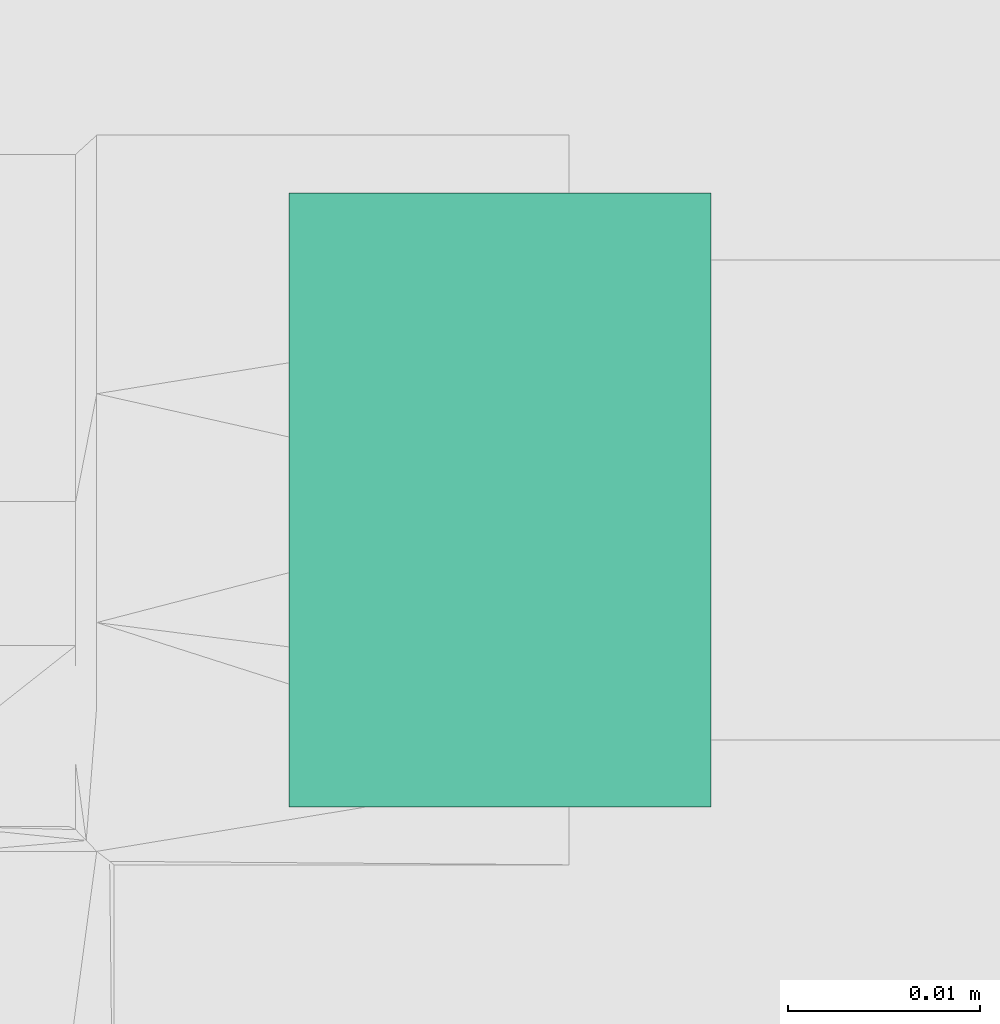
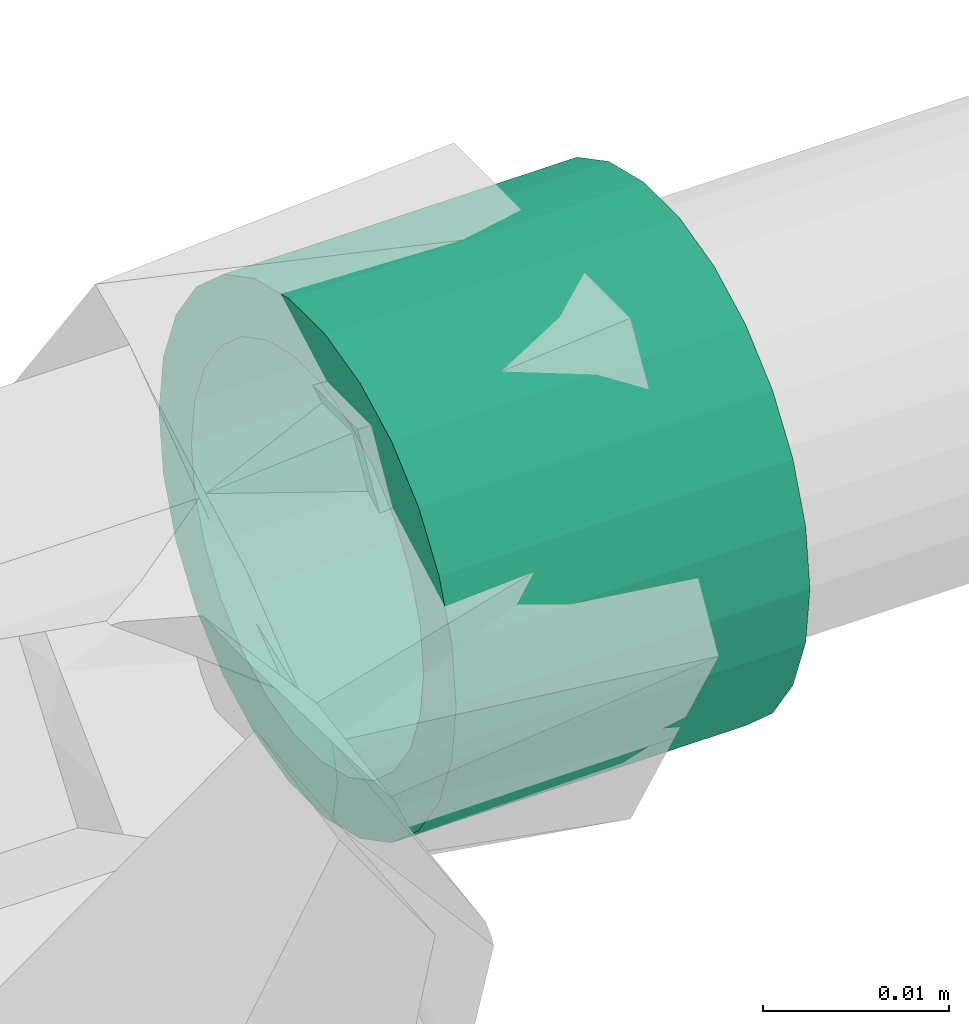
# One storey, part 156 of 166: 1 flow fitting.
"""IFC2X3 building model written with IfcOpenShell, lengths in metres."""

import ifcopenshell
import ifcopenshell.guid

model = None  # the IFC model being written
_history = None  # IfcOwnerHistory: only IFC2X3 demands one
_inside = {}  # id of a spatial element -> (the spatial element, [elements in it])
_under = {}  # id of a project, library or spatial element -> (it, [spatial elements below it])
_declared = {}  # id of a project -> (the project, [libraries it declares])
_typed = {}  # id of a type object -> (the type object, [elements of that type])
_made_of = {}  # id of a material, layer set ... -> (it, [elements and type objects made of it])


def new_model(schema):
    """Start an empty IFC model of exactly this schema.

    Asked for "IFC4X3", IfcOpenShell would pick the latest addendum, in which some entities
    have other attributes; the version numbers below select the first issue.
    IFC2X3 requires an IfcOwnerHistory on every rooted entity: one is made here for all.
    """
    global model, _history
    if schema == "IFC4X3":
        model = ifcopenshell.file(schema_version=(4, 3, 0, 0))
    else:
        model = ifcopenshell.file(schema=schema)
    _inside.clear()
    _under.clear()
    _declared.clear()
    _typed.clear()
    _made_of.clear()
    _history = None
    if model.schema == "IFC2X3":
        org = make("IfcOrganization", Name="unknown")
        user = make(
            "IfcPersonAndOrganization",
            ThePerson=make("IfcPerson", FamilyName="unknown"),
            TheOrganization=org,
        )
        app = make(
            "IfcApplication",
            ApplicationDeveloper=org,
            Version="unknown",
            ApplicationFullName="unknown",
            ApplicationIdentifier="unknown",
        )
        _history = make(
            "IfcOwnerHistory",
            OwningUser=user,
            OwningApplication=app,
            ChangeAction="ADDED",
            CreationDate=0,
        )
    return model


def make(cls, **values):
    """One entity of the class cls with the attributes given. An attribute that is None is left unset."""
    return model.create_entity(
        cls, **{name: value for name, value in values.items() if value is not None}
    )


def entity(cls, *values):
    """Any entity or typed value of the class cls, its attributes in the order of the schema. None: left unset."""
    e = model.create_entity(cls)
    for i, value in enumerate(values):
        if value is not None:
            e[i] = value
    return e


def rooted(cls, **values):
    """An entity with a GlobalId (a new one), such as an element, a storey or a relation."""
    return make(cls, GlobalId=ifcopenshell.guid.new(), OwnerHistory=_history, **values)


def si_unit(unit_type, name, prefix=None):
    """IfcSIUnit, for example si_unit("LENGTHUNIT", "METRE", prefix="MILLI")."""
    return make("IfcSIUnit", UnitType=unit_type, Prefix=prefix, Name=name)


def converted_unit(unit_type, name, factor, base, dimensions=None, offset=None):
    """IfcConversionBasedUnit, such as the inch: factor (a typed value) times the base unit."""
    return make(
        "IfcConversionBasedUnit"
        if offset is None
        else "IfcConversionBasedUnitWithOffset",
        ConversionOffset=offset,
        Dimensions=None
        if dimensions is None
        else entity("IfcDimensionalExponents", *dimensions),
        UnitType=unit_type,
        Name=name,
        ConversionFactor=make(
            "IfcMeasureWithUnit", ValueComponent=factor, UnitComponent=base
        ),
    )


def assignment(units):
    """IfcUnitAssignment: the units of a project."""
    return None if units is None else make("IfcUnitAssignment", Units=units)


def point(xyz):
    """IfcCartesianPoint."""
    return None if xyz is None else make("IfcCartesianPoint", Coordinates=xyz)


def direction(xyz):
    """IfcDirection."""
    return None if xyz is None else make("IfcDirection", DirectionRatios=xyz)


def frame(location, z_axis=None, x_axis=None):
    """IfcAxis2Placement3D, a coordinate frame: its origin and axes. An axis left out is left unset."""
    return make(
        "IfcAxis2Placement3D",
        Location=point(location),
        Axis=direction(z_axis),
        RefDirection=direction(x_axis),
    )


def frame_2d(location, x_axis=None):
    """IfcAxis2Placement2D, a coordinate frame in the plane: its origin and x axis."""
    return make(
        "IfcAxis2Placement2D", Location=point(location), RefDirection=direction(x_axis)
    )


def origin():
    """The frame at (0, 0, 0) with its axes left unset."""
    return frame((0.0, 0.0, 0.0))


def place(relative_to, where):
    """IfcLocalPlacement: puts the frame where relative to a parent placement (None: the world)."""
    return make(
        "IfcLocalPlacement", PlacementRelTo=relative_to, RelativePlacement=where
    )


def context(
    kind, dimensions, precision=None, world=None, true_north=None, identifier=None
):
    """IfcGeometricRepresentationContext, for example the 3D "Model" context."""
    return make(
        "IfcGeometricRepresentationContext",
        ContextIdentifier=identifier,
        ContextType=kind,
        CoordinateSpaceDimension=dimensions,
        Precision=precision,
        WorldCoordinateSystem=world,
        TrueNorth=true_north,
    )


def subcontext(parent, identifier, kind, view, scale=None):
    """IfcGeometricRepresentationSubContext, for example "Body" below "Model"."""
    return make(
        "IfcGeometricRepresentationSubContext",
        ContextIdentifier=identifier,
        ContextType=kind,
        ParentContext=parent,
        TargetScale=scale,
        TargetView=view,
    )


def project(units=None, contexts=None):
    """IfcProject with its units and contexts."""
    return rooted(
        "IfcProject",
        Name="project",
        RepresentationContexts=contexts,
        UnitsInContext=assignment(units),
    )


def spatial(cls, under=None, at=None, **own):
    """A site, building, storey or space (cls), placed at a placement, below another one or the project."""
    s = rooted(cls, ObjectPlacement=at, **own)
    if under is not None:
        _under.setdefault(under.id(), (under, []))[1].append(s)
    return s


def profile(cls, at=None, kind="AREA", **sizes):
    """A parametric profile (cls). Its sizes go by their IFC names, for example OverallWidth=200.0."""
    return make(cls, ProfileType=kind, Position=at, **sizes)


def hollow_circle(**sizes):
    """IfcCircleHollowProfileDef."""
    return profile("IfcCircleHollowProfileDef", **sizes)


def extrude(swept, where, along, depth):
    """IfcExtrudedAreaSolid: the profile swept, set in the frame where, extruded along a direction by depth."""
    return make(
        "IfcExtrudedAreaSolid",
        SweptArea=swept,
        Position=where,
        ExtrudedDirection=direction(along),
        Depth=depth,
    )


def shape(context_of_items, identifier, shape_type, items):
    """IfcShapeRepresentation: the items that make up one representation, for example the "Body"."""
    return make(
        "IfcShapeRepresentation",
        ContextOfItems=context_of_items,
        RepresentationIdentifier=identifier,
        RepresentationType=shape_type,
        Items=items,
    )


def source(mapping_origin, context_of_items, identifier, shape_type, items):
    """IfcRepresentationMap: a shape defined once, which mapped items show again and again."""
    return make(
        "IfcRepresentationMap",
        MappingOrigin=mapping_origin,
        MappedRepresentation=shape(context_of_items, identifier, shape_type, items),
    )


def transform(
    local_origin,
    x_axis=None,
    y_axis=None,
    z_axis=None,
    scale=None,
    scale2=None,
    scale3=None,
    uniform=True,
):
    """IfcCartesianTransformationOperator3D, or its non-uniform kind. x_axis, y_axis, z_axis: its Axis1, 2, 3."""
    if uniform:
        return make(
            "IfcCartesianTransformationOperator3D",
            Axis1=direction(x_axis),
            Axis2=direction(y_axis),
            LocalOrigin=point(local_origin),
            Scale=scale,
            Axis3=direction(z_axis),
        )
    return make(
        "IfcCartesianTransformationOperator3DnonUniform",
        Axis1=direction(x_axis),
        Axis2=direction(y_axis),
        LocalOrigin=point(local_origin),
        Scale=scale,
        Axis3=direction(z_axis),
        Scale2=scale2,
        Scale3=scale3,
    )


def mapped(mapping_source, mapping_target):
    """IfcMappedItem: shows the shape of a source again, moved by a transform."""
    return make(
        "IfcMappedItem", MappingSource=mapping_source, MappingTarget=mapping_target
    )


def material(Name=None, Category=None):
    """IfcMaterial."""
    return make("IfcMaterial", Name=Name, Category=Category)


def made_of(thing, what):
    """Note that an element or type object is made of a material, layer set ...; save() writes the relation."""
    if what is not None:
        _made_of.setdefault(what.id(), (what, []))[1].append(thing)
    return thing


def type_object(cls, material=None, **own):
    """A type object (cls), such as IfcWallType, which elements share."""
    return made_of(rooted(cls, **own), material)


def type_shapes(of_type, sources):
    """Give a type object the sources (RepresentationMaps) that its elements show as mapped items."""
    of_type.RepresentationMaps = sources


def element(
    cls,
    number,
    at=None,
    inside=None,
    cuts=None,
    type_object=None,
    material=None,
    context=None,
    identifier="Body",
    shape_type=None,
    held_by="IfcProductDefinitionShape",
    body=None,
    shapes=None,
    **own,
):
    """One element of the class cls, such as IfcWall. Its Tag is "e" and its number.

    at: its placement. inside: the storey or other place that contains it. cuts: it is an
    opening in that element (IfcRelVoidsElement). A single representation is given by context,
    identifier, shape_type and body (its items); several are given by shapes. held_by: the class
    of the entity that holds the representations. save() writes the other relations.
    """
    e = rooted(cls, Tag="e%d" % number, ObjectPlacement=at, **own)
    if body is not None:
        shapes = [shape(context, identifier, shape_type, body)]
    if shapes is not None:
        e.Representation = make(held_by, Representations=shapes)
    if inside is not None:
        _inside.setdefault(inside.id(), (inside, []))[1].append(e)
    if cuts is not None:
        rooted(
            "IfcRelVoidsElement", RelatingBuildingElement=cuts, RelatedOpeningElement=e
        )
    if type_object is not None:
        _typed.setdefault(type_object.id(), (type_object, []))[1].append(e)
    return made_of(e, material)


def aggregate(whole, parts):
    """IfcRelAggregates: a whole, such as a stair, and the parts it consists of."""
    return rooted("IfcRelAggregates", RelatingObject=whole, RelatedObjects=parts)


def save(model, path):
    """Write the relations noted so far, then the file.

    IfcRelAggregates (storeys below a building ...), IfcRelContainedInSpatialStructure (elements
    in a storey), IfcRelDefinesByType, IfcRelAssociatesMaterial and IfcRelDeclares: one each for
    every whole, place, type object, material and project.
    """
    for whole, parts in _under.values():
        aggregate(whole, parts)
    for where, things in _inside.values():
        rooted(
            "IfcRelContainedInSpatialStructure",
            RelatedElements=things,
            RelatingStructure=where,
        )
    for kind, things in _typed.values():
        rooted("IfcRelDefinesByType", RelatedObjects=things, RelatingType=kind)
    for what, things in _made_of.values():
        rooted("IfcRelAssociatesMaterial", RelatedObjects=things, RelatingMaterial=what)
    for by, libraries in _declared.values():
        rooted("IfcRelDeclares", RelatingContext=by, RelatedDefinitions=libraries)
    model.write(path)


model = new_model("IFC2X3")

# Units and contexts
model_context = context("Model", 3, precision=1e-05, world=origin(), true_north=direction((6.123233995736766e-17, 1.0)))
body_context = subcontext(model_context, "Body", "Model", "MODEL_VIEW")
ifc_project = project(units=[si_unit("LENGTHUNIT", "METRE"), converted_unit("PLANEANGLEUNIT", "DEGREE", entity("IfcPlaneAngleMeasure", 0.017453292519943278), si_unit("PLANEANGLEUNIT", "RADIAN"), dimensions=[0, 0, 0, 0, 0, 0, 0]), si_unit("AREAUNIT", "SQUARE_METRE")], contexts=[model_context])

# Site, building, storey
site_placement = place(None, origin())
site = spatial("IfcSite", under=ifc_project, at=site_placement, Name="Default", CompositionType="ELEMENT")
building_placement = place(site_placement, origin())
building = spatial("IfcBuilding", under=site, at=building_placement, Name="CASA DE ACOLHIDA PARA IDOSOS", CompositionType="ELEMENT")
storey_placement = place(building_placement, frame((0.0, 0.0, -1.7499999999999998)))
storey = spatial("IfcBuildingStorey", under=building, at=storey_placement, Name="IMPLANTAÇÃO DRENAGEM", CompositionType="ELEMENT", Elevation=-1.7499999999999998)

# Flow fitting
ifc_material = material(Name="PVC Marrom")
pipe_fitting_type = type_object("IfcPipeFittingType", Name="AF_Soldavel_Bucha de Reducao Curta:Standard", PredefinedType="NOTDEFINED", material=ifc_material)
shared_shape = source(origin(), body_context, "Body", "SweptSolid", [
    extrude(hollow_circle(Radius=0.016, WallThickness=0.0034999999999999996, at=frame_2d((0.0, -7.20339910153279e-17), x_axis=(1.0, 0.0))), frame((0.0, 0.0, 0.0), z_axis=(1.0, 0.0, 0.0), x_axis=(0.0, 1.0, 0.0)), (0.0, 0.0, 1.0), 0.02200000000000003),
])
type_shapes(pipe_fitting_type, [shared_shape])
flow_fitting_placement = place(storey_placement, frame((20.08525371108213, 22.85494207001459, -0.19999999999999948), z_axis=(0.0, 0.0, 1.0), x_axis=(-1.0, 0.0, 0.0)))
element("IfcFlowFitting", 1, at=flow_fitting_placement, inside=storey, type_object=pipe_fitting_type, material=ifc_material, Name="AF_Soldavel_Bucha de Reducao Curta:Standard", ObjectType="AF_Soldavel_Bucha de Reducao Curta:Standard", context=body_context, shape_type="MappedRepresentation", body=[
    mapped(shared_shape, transform((0.0, 0.0, 0.0), scale=1.0)),
])

save(model, "model.ifc")
